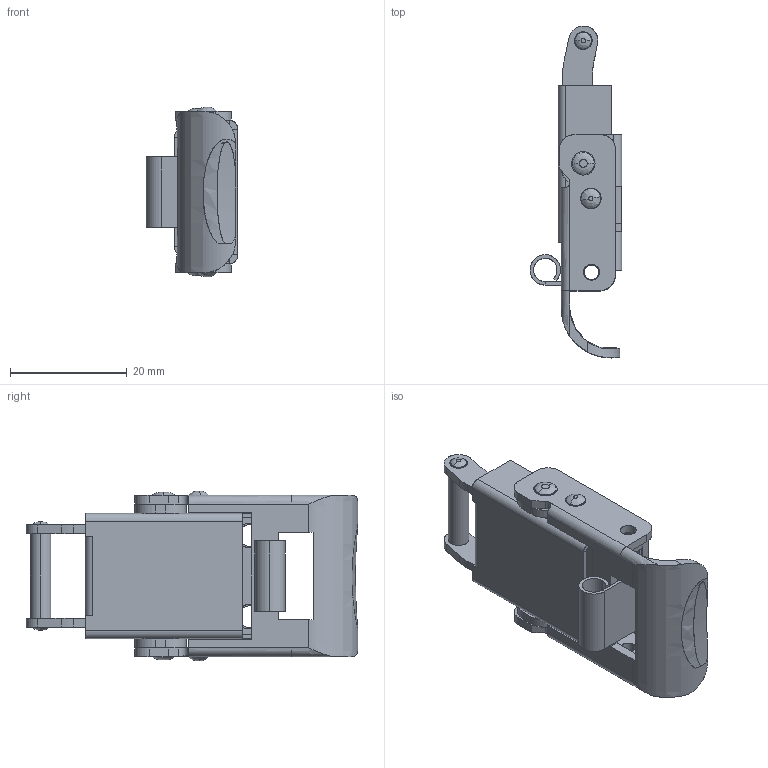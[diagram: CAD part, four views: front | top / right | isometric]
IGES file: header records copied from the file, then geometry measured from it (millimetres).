
Start section: SolidWorks IGES file using analytic representation for surfaces
Global section: file name: C:\Users\cbrechard\Desktop\GP 3010.IGS; native system: SolidWorks 2017; preprocessor: SolidWorks 2017; author: cbrechard; date: 190909.170942; units: millimetre
Bounding box: 15.7 x 56.73 x 29 mm (x, y, z)
Surface area: 11584.6 mm2 (no closed solid volume)
Topology: 0 solids, 0 shells, 349 faces, 4964 edges, 4963 vertices
Faces by surface type: bspline 229, revolution 120
